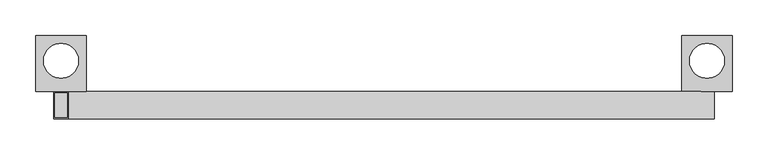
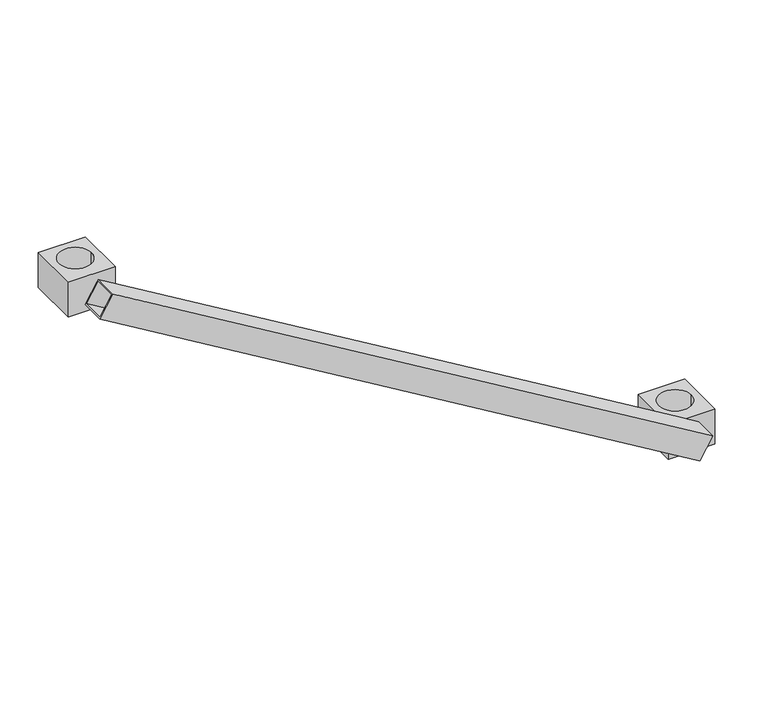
"""IFC4 building model written with IfcOpenShell, lengths in millimetres: proxy geometry, AK_アルバトロスAK伸縮斜材 : H0900×L0900."""

from ifc_helpers import new_model, si_unit, point, frame, frame_2d, origin, place, context, project, spatial, polyline, circle_curve, trimmed, segment, composite_curve, outline, extrude, source, transform, mapped, element, save


def generic_models_756b3199(model_context):
    return source(origin(), model_context, "Body", "SweptSolid", [
        extrude(outline(polyline([(0.0, 0.0), (0.0, -38.0), (-38.0, -38.0), (-38.0, 0.0), (0.0, 0.0)]), holes=[polyline([(-2.0, -2.0), (-36.0, -2.0), (-36.0, -36.0), (-2.0, -36.0), (-2.0, -2.0)])]), frame((9.7864963, 19.0, 16.2857143), z_axis=(-0.8571428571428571, 0.0, 0.5150787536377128), x_axis=(0.5150787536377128, 0.0, 0.8571428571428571)), (0.0, 0.0, 1.0), 1050.0),
        extrude(outline(polyline([(35.0, 96.8842695), (35.0, 19.0), (-35.0, 19.0), (-35.0, 96.8842695), (35.0, 96.8842695)]), holes=[composite_curve([segment(trimmed(circle_curve(frame_2d((0.0, 61.8842695)), 24.3), [point((24.3, 61.8842695))], [point((-24.3, 61.8842695))], True, "CARTESIAN"), True, "CONTINUOUS"), segment(trimmed(circle_curve(frame_2d((0.0, 61.8842695)), 24.3), [point((-24.3, 61.8842695))], [point((24.3, 61.8842695))], True, "CARTESIAN"), True, "CONTINUOUS")], self_intersect=False)]), frame((0.0, 0.0, -27.7559086), z_axis=(0.0, 0.0, 1.0), x_axis=(1.0, 0.0, 0.0)), (0.0, 0.0, 1.0), 55.5118171),
        extrude(outline(polyline([(-865.0, 19.0), (-935.0, 19.0), (-935.0, 96.8842695), (-865.0, 96.8842695), (-865.0, 19.0)]), holes=[composite_curve([segment(trimmed(circle_curve(frame_2d((-900.0, 61.8842695)), 24.3), [point((-875.7, 61.8842695))], [point((-924.3, 61.8842695))], True, "CARTESIAN"), True, "CONTINUOUS"), segment(trimmed(circle_curve(frame_2d((-900.0, 61.8842695)), 24.3), [point((-924.3, 61.8842695))], [point((-875.7, 61.8842695))], True, "CARTESIAN"), True, "CONTINUOUS")], self_intersect=False)]), frame((0.0, 0.0, 513.0767828), z_axis=(0.0, 0.0, 1.0), x_axis=(1.0, 0.0, 0.0)), (0.0, 0.0, 1.0), 55.5118171),
    ])


if __name__ == "__main__":
    model = new_model("IFC4")
    model_context = context("Model", 3, world=origin())
    ifc_project = project(units=[si_unit("LENGTHUNIT", "METRE", prefix="MILLI")], contexts=[model_context])
    site = spatial("IfcSite", under=ifc_project)
    building = spatial("IfcBuilding", under=site)
    placement = place(None, origin())
    generic_models_shape = generic_models_756b3199(model_context)
    element("IfcBuildingElementProxy", 1, Name="AK_アルバトロスAK伸縮斜材 : H0900×L0900", ObjectType="AK_アルバトロスAK伸縮斜材 : H0900×L0900", at=placement, inside=building, context=model_context, shape_type="MappedRepresentation", body=[
        mapped(generic_models_shape, transform((0.0, 0.0, 0.0), x_axis=(1.0, 0.0, 0.0), y_axis=(0.0, 1.0, 0.0), z_axis=(0.0, 0.0, 1.0))),
    ])
    save(model, "model.ifc")
